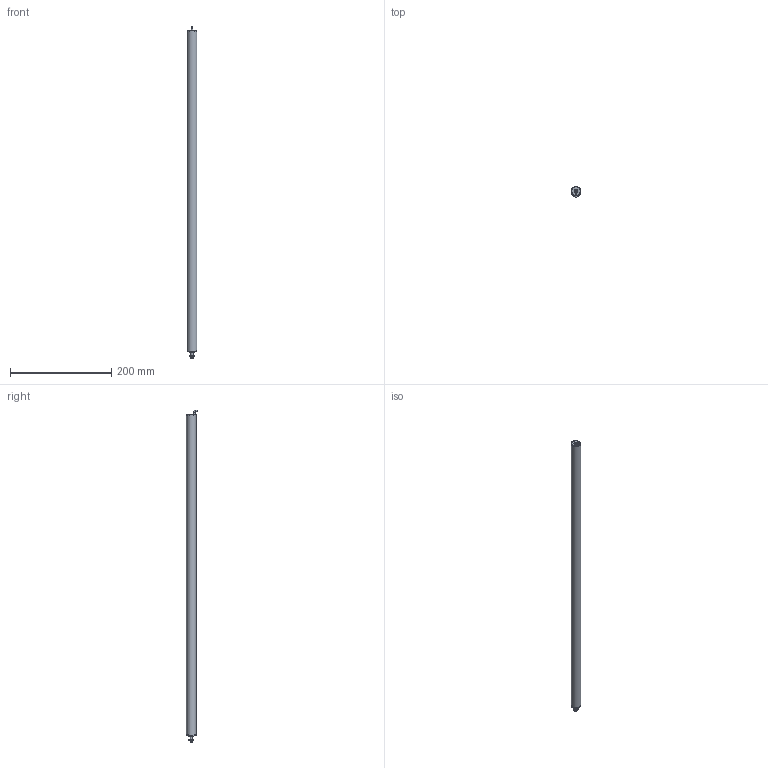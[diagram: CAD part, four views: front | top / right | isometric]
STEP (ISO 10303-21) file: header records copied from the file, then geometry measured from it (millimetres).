
FILE_DESCRIPTION(/* description */ ('ILPS-19Z-XXX-A-00-ZZ shrinkwrapped'),/* implementation_level */ '2;1');
FILE_NAME(/* name */ 'ILPS-19Z-600-A-00-ZZ shrinkwrapped.stp',/* time_stamp */ '2026-08-13T16:14:32-04:00',/* author */ ('Cameron'),/* organization */ ('hgsi'),/* preprocessor_version */ 'ST-DEVELOPER v20.1',/* originating_system */ 'Autodesk Inventor 2027',/* authorisation */ '');
FILE_SCHEMA (('AUTOMOTIVE_DESIGN { 1 0 10303 214 3 1 1 }'));
Length unit declared in the file: inch
Products named in the file (4): ILPS-19Z-250-A-00-ZZ shrinkwrapped; ILPS-19Z-600-A-00-ZZ-A shrinkwrapped body; ILPS-19Z-600 Rod; 8200-0360
Assembly tree (4 placements, depth 2):
  ILPS-19Z-250-A-00-ZZ shrinkwrapped
    ILPS-19Z-600-A-00-ZZ-A shrinkwrapped body
    ILPS-19Z-600 Rod
    8200-0360  x2
Bounding box: 19.05 x 21.89 x 656.4 mm (x, y, z)
Volume: 32735.6 mm3; surface area: 131761.4 mm2
Topology: 6 solids, 6 shells, 95 faces, 226 edges, 149 vertices
Faces by surface type: cylinder 41, plane 33, cone 16, bspline 4, torus 1
Full cylindrical faces by diameter (mm): 3.175 x2, 3.961 x2, 4.75 x1, 4.775 x1, 5 x4, 5.08 x1, 5.944 x2, 5.994 x1, 7.061 x1, 7.137 x2, 18.364 x1, 18.415 x1, 19.05 x1
Entity records: 2811 total; most frequent: CARTESIAN_POINT 1138, DIRECTION 304, ORIENTED_EDGE 302, EDGE_CURVE 151, AXIS2_PLACEMENT_3D 127, VERTEX_POINT 99, EDGE_LOOP 82, FACE_OUTER_BOUND 68
